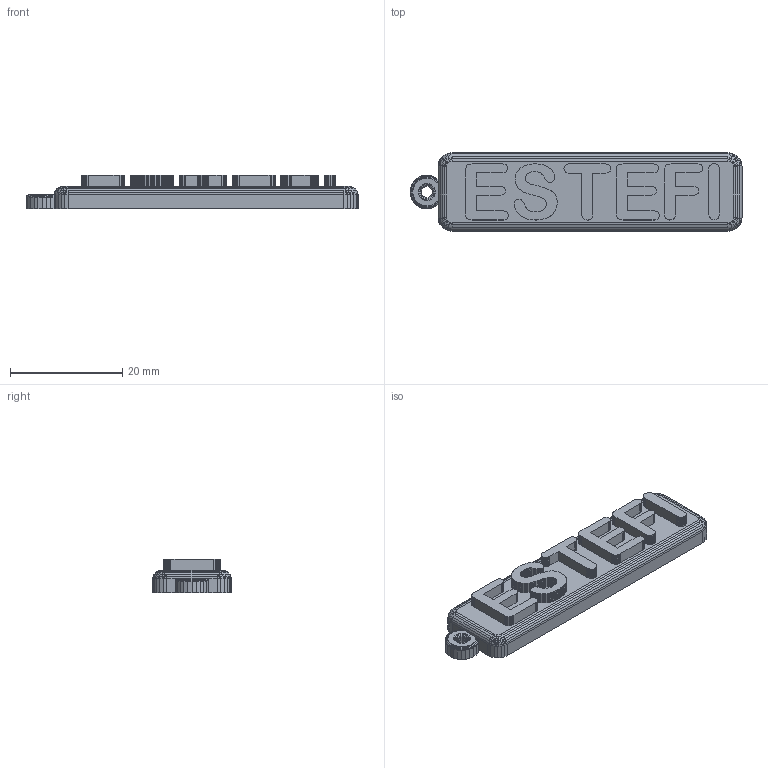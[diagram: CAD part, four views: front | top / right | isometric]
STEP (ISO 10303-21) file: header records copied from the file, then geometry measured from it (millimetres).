
FILE_DESCRIPTION(('Open CASCADE Model'),'2;1');
FILE_NAME('Open CASCADE Shape Model','2026-10-27T23:19:17',('Author'),( 'Open CASCADE'),'Open CASCADE STEP processor 7.9','Open CASCADE 7.9' ,'Unknown');
FILE_SCHEMA(('AUTOMOTIVE_DESIGN { 1 0 10303 214 1 1 1 1 }'));
Products named in the file (1): Open CASCADE STEP translator 7.9 1
Bounding box: 59.2 x 14 x 6 mm (x, y, z)
Volume: 3422.6 mm3; surface area: 2535.2 mm2
Topology: 1 solids, 1 shells, 1769 faces, 3571 edges, 1810 vertices
Faces by surface type: plane 1769
Entity records: 89226 total; most frequent: CARTESIAN_POINT 14293, DIRECTION 14253, LINE 10713, VECTOR 10713, ORIENTED_EDGE 7142, PCURVE 7142, DEFINITIONAL_REPRESENTATION 7142, EDGE_CURVE 3571
